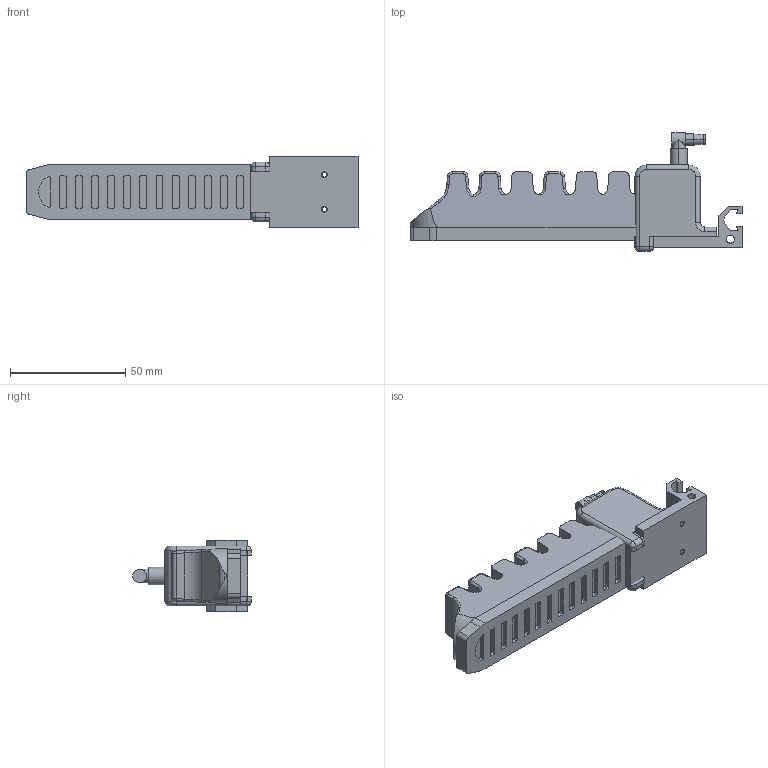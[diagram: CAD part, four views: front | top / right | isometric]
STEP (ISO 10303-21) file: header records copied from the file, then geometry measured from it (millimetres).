
FILE_DESCRIPTION (( 'STEP AP214' ), '1' );
FILE_NAME ('GFM-A7V5.STEP', '2019-12-04T02:53:06', ( '微软用户' ), ( '微软中国' ), 'SwSTEP 2.0', 'SolidWorks 2016', '' );
FILE_SCHEMA (( 'AUTOMOTIVE_DESIGN' ));
Length unit declared in the file: millimetre
Products named in the file (1): GFM-A7V5
Bounding box: 144.21 x 51.5 x 31 mm (x, y, z)
Volume: 87379.4 mm3; surface area: 29572.7 mm2
Topology: 4 solids, 4 shells, 365 faces, 930 edges, 588 vertices
Faces by surface type: cylinder 165, plane 152, bspline 24, cone 14, torus 6, sphere 4
Entity records: 16714 total; most frequent: CARTESIAN_POINT 3953, ORIENTED_EDGE 1860, DIRECTION 1780, EDGE_CURVE 930, AXIS2_PLACEMENT_3D 625, VERTEX_POINT 588, VECTOR 530, LINE 530
